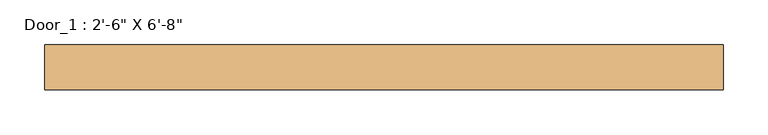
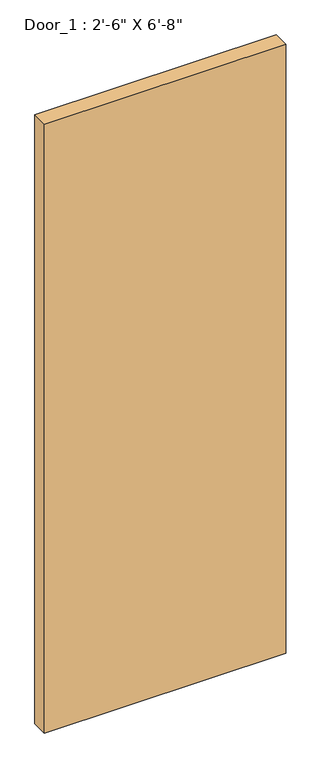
"""IFC4 building model written with IfcOpenShell, lengths in millimetres: door geometry."""

from ifc_helpers import new_model, si_unit, origin, origin_with_axes, place, context, project, spatial, polyline, outline, extrude, source, transform, mapped, element, save


def door_ae451de5(model_context):
    return source(origin(), model_context, "Body", "SweptSolid", [
        extrude(outline(polyline([(381.0, 27.1893842), (-381.0, 27.1893842), (-381.0, 77.9893842), (381.0, 77.9893842), (381.0, 27.1893842)])), origin_with_axes(), (0.0, 0.0, 1.0), 2032.0),
    ])


if __name__ == "__main__":
    model = new_model("IFC4")
    model_context = context("Model", 3, world=origin())
    ifc_project = project(units=[si_unit("LENGTHUNIT", "METRE", prefix="MILLI")], contexts=[model_context])
    site = spatial("IfcSite", under=ifc_project)
    building = spatial("IfcBuilding", under=site)
    placement = place(None, origin())
    door_shape = door_ae451de5(model_context)
    element("IfcDoor", 1, ObjectType="Door_1 : 2'-6\" X 6'-8\"", at=placement, inside=building, context=model_context, shape_type="MappedRepresentation", body=[
        mapped(door_shape, transform((0.0, 0.0, 0.0), x_axis=(1.0, 0.0, 0.0), y_axis=(0.0, 1.0, 0.0), z_axis=(0.0, 0.0, 1.0))),
    ])
    save(model, "model.ifc")
